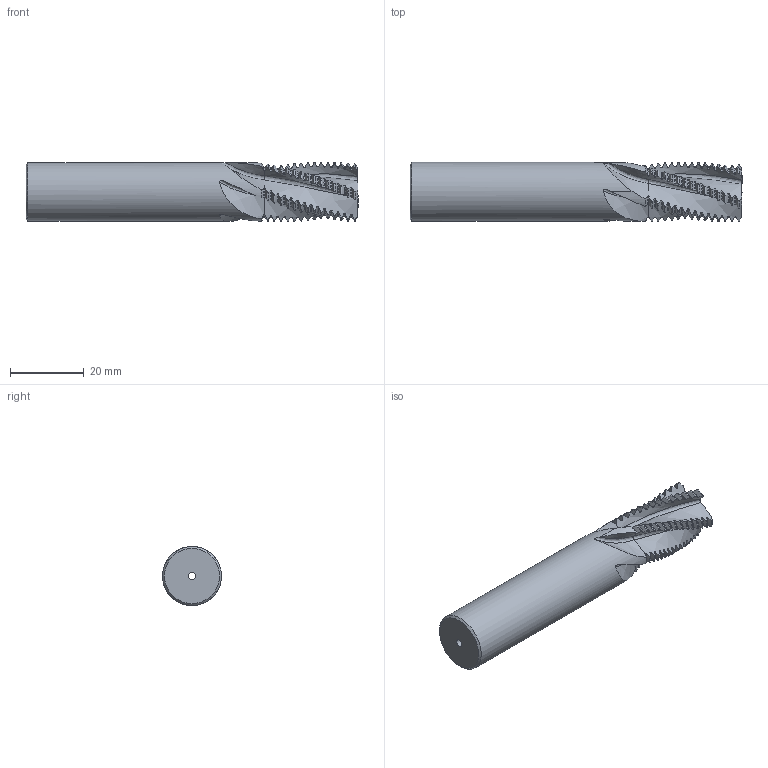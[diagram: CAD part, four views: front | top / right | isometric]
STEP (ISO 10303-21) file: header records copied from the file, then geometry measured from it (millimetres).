
FILE_DESCRIPTION(/* description */ (''),/* implementation_level */ '2;1');
FILE_NAME(/* name */ '00035553-STEP',/* time_stamp */ '2024-02-20T07:17:39+01:00',/* author */ (''),/* organization */ (''),/* preprocessor_version */ 'ST-DEVELOPER v16.5',/* originating_system */ 'HiCAD 2017 2201.0 Build 268',/* authorisation */ '');
FILE_SCHEMA (('AUTOMOTIVE_DESIGN { 1 0 10303 214 1 1 1 1 }'));
Products named in the file (2): Root; ROTATIONSTEIL_0
Assembly tree (1 placements, depth 2):
  Root
    ROTATIONSTEIL_0
Bounding box: 90 x 16 x 15.99 mm (x, y, z)
Volume: 14505.3 mm3; surface area: 5974 mm2
Topology: 1 solids, 1 shells, 471 faces, 1546 edges, 1077 vertices
Faces by surface type: torus 215, cone 146, cylinder 78, bspline 30, plane 2
Full cylindrical faces by diameter (mm): 2 x1, 16 x1
Entity records: 53354 total; most frequent: CARTESIAN_POINT 27299, PRESENTATION_STYLE_ASSIGNMENT 3075, COLOUR_RGB 3075, DRAUGHTING_PRE_DEFINED_CURVE_FONT 3074, CURVE_STYLE 3074, OVER_RIDING_STYLED_ITEM 3074, ORIENTED_EDGE 3074, DIRECTION 1774
